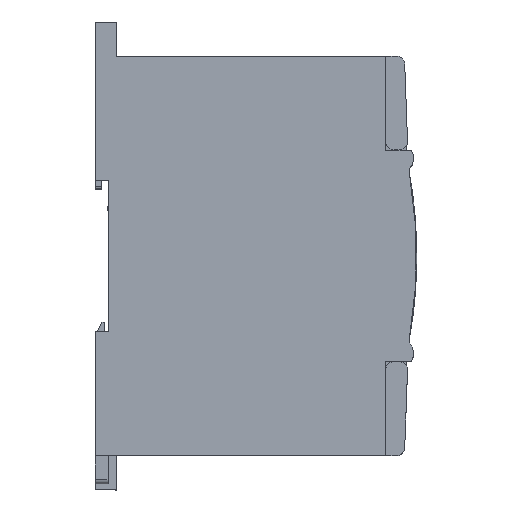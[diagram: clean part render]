
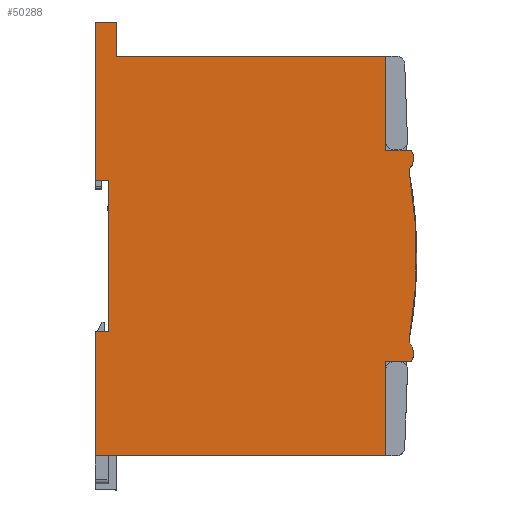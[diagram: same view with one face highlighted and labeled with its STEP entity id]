
A CAD part, top view. The second image highlights one B-rep face of the part: STEP entity #50288.
In plain terms, the highlighted planar face has unit normal (0, 0, 1) as drawn and (-1, 0, 0) by its records, which use the part's own axes.
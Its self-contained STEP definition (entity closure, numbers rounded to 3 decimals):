
#192 = DIRECTION ( 'NONE',  ( 1., 0., 0. ) ) ;
#322 = LINE ( 'NONE', #50282, #33202 ) ;
#594 = PLANE ( 'NONE',  #54362 ) ;
#1538 = EDGE_CURVE ( 'NONE', #25966, #60222, #77076, .T. ) ;
#2468 = EDGE_CURVE ( 'NONE', #3933, #78740, #46489, .T. ) ;
#2735 = ORIENTED_EDGE ( 'NONE', *, *, #34575, .F. ) ;
#3286 = VERTEX_POINT ( 'NONE', #53826 ) ;
#3462 = DIRECTION ( 'NONE',  ( 1., 0., 0. ) ) ;
#3507 = DIRECTION ( 'NONE',  ( 0., 1., 0. ) ) ;
#3633 = EDGE_LOOP ( 'NONE', ( #67589, #72287, #58361, #79616, #20091, #53632, #75667, #74314, #3710, #47533, #69067, #4529, #22348, #2735, #36509, #35086, #28515, #64467 ) ) ;
#3710 = ORIENTED_EDGE ( 'NONE', *, *, #14719, .F. ) ;
#3933 = VERTEX_POINT ( 'NONE', #69328 ) ;
#4487 = LINE ( 'NONE', #27518, #68258 ) ;
#4529 = ORIENTED_EDGE ( 'NONE', *, *, #37916, .T. ) ;
#6809 = DIRECTION ( 'NONE',  ( 0., 0., -1. ) ) ;
#7058 = CARTESIAN_POINT ( 'NONE',  ( 0., 22.2, -1.268 ) ) ;
#7090 = VECTOR ( 'NONE', #13118, 1000. ) ;
#7372 = CARTESIAN_POINT ( 'NONE',  ( 0., 47., -112.688 ) ) ;
#7713 = EDGE_CURVE ( 'NONE', #17421, #60222, #322, .T. ) ;
#7994 = CARTESIAN_POINT ( 'NONE',  ( 0., 94., -70.6 ) ) ;
#8095 = CARTESIAN_POINT ( 'NONE',  ( 0., 102., -75.6 ) ) ;
#9505 = CARTESIAN_POINT ( 'NONE',  ( 0., 0., -75.6 ) ) ;
#10206 = LINE ( 'NONE', #10271, #26637 ) ;
#10271 = CARTESIAN_POINT ( 'NONE',  ( 0., 69.955, -1.724 ) ) ;
#11052 = LINE ( 'NONE', #63655, #36168 ) ;
#11689 = VERTEX_POINT ( 'NONE', #43541 ) ;
#11754 = LINE ( 'NONE', #7058, #42671 ) ;
#12058 = VECTOR ( 'NONE', #51817, 1000. ) ;
#13118 = DIRECTION ( 'NONE',  ( 0., 1., 0. ) ) ;
#13316 = DIRECTION ( 'NONE',  ( 0., 0.998, -0.06 ) ) ;
#13429 = CARTESIAN_POINT ( 'NONE',  ( 0., 71.8, -1.268 ) ) ;
#13638 = DIRECTION ( 'NONE',  ( 0., 0., -1. ) ) ;
#14719 = EDGE_CURVE ( 'NONE', #17421, #3286, #25046, .T. ) ;
#14799 = CARTESIAN_POINT ( 'NONE',  ( 0., 22.2, -7.268 ) ) ;
#15567 = VERTEX_POINT ( 'NONE', #31143 ) ;
#16188 = CIRCLE ( 'NONE', #43191, 3.579 ) ;
#16533 = DIRECTION ( 'NONE',  ( 0., 1., -0.008 ) ) ;
#17421 = VERTEX_POINT ( 'NONE', #54838 ) ;
#17976 = LINE ( 'NONE', #9505, #65290 ) ;
#19160 = LINE ( 'NONE', #55665, #66449 ) ;
#20091 = ORIENTED_EDGE ( 'NONE', *, *, #48416, .F. ) ;
#21898 = VERTEX_POINT ( 'NONE', #68813 ) ;
#22274 = AXIS2_PLACEMENT_3D ( 'NONE', #37211, #192, #43406 ) ;
#22348 = ORIENTED_EDGE ( 'NONE', *, *, #34842, .F. ) ;
#23670 = LINE ( 'NONE', #76015, #40106 ) ;
#24680 = CARTESIAN_POINT ( 'NONE',  ( 0., 71.8, -7.268 ) ) ;
#24765 = AXIS2_PLACEMENT_3D ( 'NONE', #7372, #50598, #13638 ) ;
#25046 = CIRCLE ( 'NONE', #22274, 3.579 ) ;
#25966 = VERTEX_POINT ( 'NONE', #65545 ) ;
#26637 = VECTOR ( 'NONE', #16533, 1000. ) ;
#26942 = CARTESIAN_POINT ( 'NONE',  ( 0., 94., -7.268 ) ) ;
#27518 = CARTESIAN_POINT ( 'NONE',  ( 0., 22.2, -75.6 ) ) ;
#28502 = LINE ( 'NONE', #33192, #12058 ) ;
#28515 = ORIENTED_EDGE ( 'NONE', *, *, #47346, .T. ) ;
#29581 = EDGE_CURVE ( 'NONE', #11689, #68860, #11052, .T. ) ;
#29768 = VECTOR ( 'NONE', #51225, 1000. ) ;
#30108 = DIRECTION ( 'NONE',  ( 0., 0., -1. ) ) ;
#31143 = CARTESIAN_POINT ( 'NONE',  ( 0., 0., -7.268 ) ) ;
#31409 = CARTESIAN_POINT ( 'NONE',  ( 0., 69.935, -4.323 ) ) ;
#31928 = VERTEX_POINT ( 'NONE', #8095 ) ;
#32689 = VERTEX_POINT ( 'NONE', #51456 ) ;
#33192 = CARTESIAN_POINT ( 'NONE',  ( 0., 94., -7.268 ) ) ;
#33202 = VECTOR ( 'NONE', #13316, 1000. ) ;
#34500 = CARTESIAN_POINT ( 'NONE',  ( 0., 94., -70.6 ) ) ;
#34575 = EDGE_CURVE ( 'NONE', #78740, #35089, #19160, .T. ) ;
#34842 = EDGE_CURVE ( 'NONE', #35089, #46072, #16188, .T. ) ;
#35086 = ORIENTED_EDGE ( 'NONE', *, *, #53994, .F. ) ;
#35089 = VERTEX_POINT ( 'NONE', #13429 ) ;
#36168 = VECTOR ( 'NONE', #63912, 1000. ) ;
#36509 = ORIENTED_EDGE ( 'NONE', *, *, #2468, .F. ) ;
#36658 = CARTESIAN_POINT ( 'NONE',  ( 0., 64.75, -72.4 ) ) ;
#36675 = VECTOR ( 'NONE', #30108, 1000. ) ;
#37211 = CARTESIAN_POINT ( 'NONE',  ( 0., 24.065, -4.323 ) ) ;
#37916 = EDGE_CURVE ( 'NONE', #25966, #46072, #10206, .T. ) ;
#39964 = LINE ( 'NONE', #56325, #7090 ) ;
#40106 = VECTOR ( 'NONE', #51216, 1000. ) ;
#40452 = CARTESIAN_POINT ( 'NONE',  ( 0., 69.935, -4.323 ) ) ;
#40662 = VECTOR ( 'NONE', #76325, 1000. ) ;
#41162 = VERTEX_POINT ( 'NONE', #34500 ) ;
#42002 = EDGE_CURVE ( 'NONE', #3286, #56898, #11754, .T. ) ;
#42482 = LINE ( 'NONE', #47934, #36675 ) ;
#42671 = VECTOR ( 'NONE', #68900, 1000. ) ;
#43191 = AXIS2_PLACEMENT_3D ( 'NONE', #40452, #3462, #46684 ) ;
#43406 = DIRECTION ( 'NONE',  ( 0., 0., -1. ) ) ;
#43541 = CARTESIAN_POINT ( 'NONE',  ( 0., 29.25, -75.6 ) ) ;
#43822 = DIRECTION ( 'NONE',  ( 1., 0., 0. ) ) ;
#44787 = CARTESIAN_POINT ( 'NONE',  ( 0., 29.25, -72.4 ) ) ;
#46072 = VERTEX_POINT ( 'NONE', #47424 ) ;
#46147 = DIRECTION ( 'NONE',  ( 0., 1., 0. ) ) ;
#46489 = LINE ( 'NONE', #26942, #40662 ) ;
#46528 = DIRECTION ( 'NONE',  ( 0., 0., -1. ) ) ;
#46684 = DIRECTION ( 'NONE',  ( 0., 0., -1. ) ) ;
#46933 = VECTOR ( 'NONE', #65623, 1000. ) ;
#46980 = CARTESIAN_POINT ( 'NONE',  ( 0., 29.25, -75.6 ) ) ;
#47346 = EDGE_CURVE ( 'NONE', #41162, #66591, #62693, .T. ) ;
#47424 = CARTESIAN_POINT ( 'NONE',  ( 0., 67.494, -1.705 ) ) ;
#47533 = ORIENTED_EDGE ( 'NONE', *, *, #7713, .T. ) ;
#47934 = CARTESIAN_POINT ( 'NONE',  ( 0., 102., -70.6 ) ) ;
#48416 = EDGE_CURVE ( 'NONE', #32689, #11689, #79764, .T. ) ;
#49455 = EDGE_CURVE ( 'NONE', #15567, #56898, #39964, .T. ) ;
#50282 = CARTESIAN_POINT ( 'NONE',  ( 0., 69.935, -4.325 ) ) ;
#50288 = ADVANCED_FACE ( 'NONE', ( #75520 ), #594, .F. ) ;
#50598 = DIRECTION ( 'NONE',  ( 1., 0., 0. ) ) ;
#51187 = CARTESIAN_POINT ( 'NONE',  ( 0., 102., -70.6 ) ) ;
#51216 = DIRECTION ( 'NONE',  ( 0., 0., -1. ) ) ;
#51225 = DIRECTION ( 'NONE',  ( 0., 1., 0. ) ) ;
#51456 = CARTESIAN_POINT ( 'NONE',  ( 0., 0., -75.6 ) ) ;
#51817 = DIRECTION ( 'NONE',  ( 0., 0., 1. ) ) ;
#53632 = ORIENTED_EDGE ( 'NONE', *, *, #79008, .F. ) ;
#53826 = CARTESIAN_POINT ( 'NONE',  ( 0., 22.2, -1.268 ) ) ;
#53994 = EDGE_CURVE ( 'NONE', #41162, #3933, #28502, .T. ) ;
#54362 = AXIS2_PLACEMENT_3D ( 'NONE', #31409, #43822, #6809 ) ;
#54838 = CARTESIAN_POINT ( 'NONE',  ( 0., 26.494, -1.694 ) ) ;
#55665 = CARTESIAN_POINT ( 'NONE',  ( 0., 71.8, -75.6 ) ) ;
#56325 = CARTESIAN_POINT ( 'NONE',  ( 0., 0., -7.268 ) ) ;
#56898 = VERTEX_POINT ( 'NONE', #14799 ) ;
#57174 = VECTOR ( 'NONE', #3507, 1000. ) ;
#58361 = ORIENTED_EDGE ( 'NONE', *, *, #68407, .F. ) ;
#60222 = VERTEX_POINT ( 'NONE', #72333 ) ;
#62693 = LINE ( 'NONE', #7994, #29768 ) ;
#63528 = VERTEX_POINT ( 'NONE', #36658 ) ;
#63655 = CARTESIAN_POINT ( 'NONE',  ( 0., 29.25, -75.6 ) ) ;
#63912 = DIRECTION ( 'NONE',  ( 0., 0., 1. ) ) ;
#64467 = ORIENTED_EDGE ( 'NONE', *, *, #69214, .T. ) ;
#65290 = VECTOR ( 'NONE', #46528, 1000. ) ;
#65545 = CARTESIAN_POINT ( 'NONE',  ( 0., 66.487, -1.698 ) ) ;
#65623 = DIRECTION ( 'NONE',  ( 0., 1., 0. ) ) ;
#66449 = VECTOR ( 'NONE', #68299, 1000. ) ;
#66591 = VERTEX_POINT ( 'NONE', #51187 ) ;
#67589 = ORIENTED_EDGE ( 'NONE', *, *, #78218, .F. ) ;
#68258 = VECTOR ( 'NONE', #46147, 1000. ) ;
#68299 = DIRECTION ( 'NONE',  ( 0., 0., 1. ) ) ;
#68407 = EDGE_CURVE ( 'NONE', #68860, #63528, #75475, .T. ) ;
#68813 = CARTESIAN_POINT ( 'NONE',  ( 0., 64.75, -75.6 ) ) ;
#68860 = VERTEX_POINT ( 'NONE', #44787 ) ;
#68900 = DIRECTION ( 'NONE',  ( 0., 0., -1. ) ) ;
#69067 = ORIENTED_EDGE ( 'NONE', *, *, #1538, .F. ) ;
#69214 = EDGE_CURVE ( 'NONE', #66591, #31928, #42482, .T. ) ;
#69328 = CARTESIAN_POINT ( 'NONE',  ( 0., 94., -7.268 ) ) ;
#72287 = ORIENTED_EDGE ( 'NONE', *, *, #72373, .F. ) ;
#72333 = CARTESIAN_POINT ( 'NONE',  ( 0., 27.268, -1.741 ) ) ;
#72373 = EDGE_CURVE ( 'NONE', #63528, #21898, #23670, .T. ) ;
#74314 = ORIENTED_EDGE ( 'NONE', *, *, #42002, .F. ) ;
#75475 = LINE ( 'NONE', #77487, #57174 ) ;
#75520 = FACE_OUTER_BOUND ( 'NONE', #3633, .T. ) ;
#75667 = ORIENTED_EDGE ( 'NONE', *, *, #49455, .T. ) ;
#76015 = CARTESIAN_POINT ( 'NONE',  ( 0., 64.75, -72.4 ) ) ;
#76325 = DIRECTION ( 'NONE',  ( 0., -1., 0. ) ) ;
#77076 = CIRCLE ( 'NONE', #24765, 112.688 ) ;
#77487 = CARTESIAN_POINT ( 'NONE',  ( 0., 0., -72.4 ) ) ;
#78218 = EDGE_CURVE ( 'NONE', #21898, #31928, #4487, .T. ) ;
#78740 = VERTEX_POINT ( 'NONE', #24680 ) ;
#79008 = EDGE_CURVE ( 'NONE', #15567, #32689, #17976, .T. ) ;
#79616 = ORIENTED_EDGE ( 'NONE', *, *, #29581, .F. ) ;
#79764 = LINE ( 'NONE', #46980, #46933 ) ;
